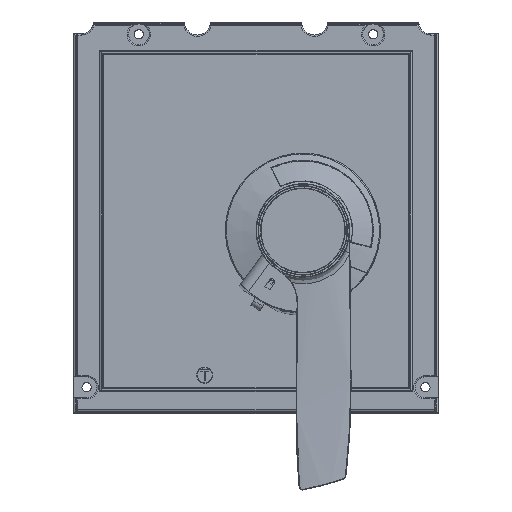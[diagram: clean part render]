
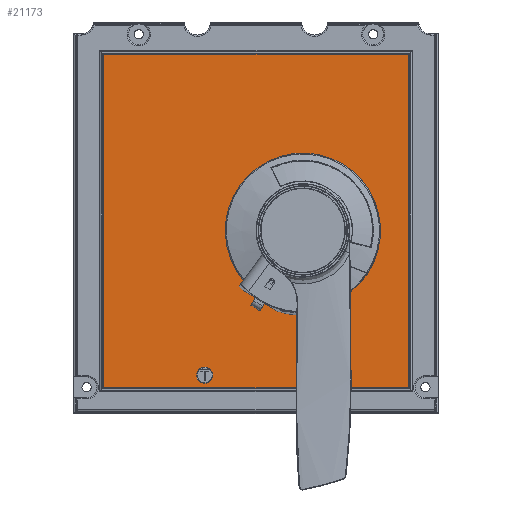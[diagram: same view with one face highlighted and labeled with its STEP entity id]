
A CAD part, top view. The second image highlights one B-rep face of the part: STEP entity #21173.
In plain terms, the highlighted planar face has unit normal (0, 0, 1) as drawn and (0, 1, 0) by its records, which use the part's own axes.
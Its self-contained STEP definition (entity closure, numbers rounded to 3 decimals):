
#456 = ORIENTED_EDGE ( 'NONE', *, *, #22110, .T. ) ;
#1251 = CARTESIAN_POINT ( 'NONE',  ( 18., 55.5, -47.5 ) ) ;
#1416 = CIRCLE ( 'NONE', #11676, 3.1 ) ;
#1748 = FACE_BOUND ( 'NONE', #35250, .T. ) ;
#1887 = ORIENTED_EDGE ( 'NONE', *, *, #37893, .F. ) ;
#3322 = DIRECTION ( 'NONE',  ( 0., 0., -1. ) ) ;
#3747 = CARTESIAN_POINT ( 'NONE',  ( 18., 55.5, 8.5 ) ) ;
#5247 = ORIENTED_EDGE ( 'NONE', *, *, #52655, .T. ) ;
#6428 = DIRECTION ( 'NONE',  ( 0., 1., 0. ) ) ;
#7213 = VECTOR ( 'NONE', #46924, 1000. ) ;
#7453 = DIRECTION ( 'NONE',  ( 0., 1., 0. ) ) ;
#8972 = VERTEX_POINT ( 'NONE', #1251 ) ;
#10297 = EDGE_LOOP ( 'NONE', ( #10987, #37352, #456, #5247 ) ) ;
#10355 = DIRECTION ( 'NONE',  ( 0., 1., 0. ) ) ;
#10987 = ORIENTED_EDGE ( 'NONE', *, *, #50638, .T. ) ;
#11020 = VERTEX_POINT ( 'NONE', #22251 ) ;
#11091 = VERTEX_POINT ( 'NONE', #49085 ) ;
#11676 = AXIS2_PLACEMENT_3D ( 'NONE', #52098, #7453, #12118 ) ;
#12118 = DIRECTION ( 'NONE',  ( 0., 0., 1. ) ) ;
#12334 = LINE ( 'NONE', #26071, #32624 ) ;
#12894 = VERTEX_POINT ( 'NONE', #18314 ) ;
#13618 = CARTESIAN_POINT ( 'NONE',  ( 18., 55.5, -19.5 ) ) ;
#14465 = EDGE_CURVE ( 'NONE', #53257, #34800, #28654, .T. ) ;
#15776 = PLANE ( 'NONE',  #53118 ) ;
#16898 = VECTOR ( 'NONE', #46424, 1000. ) ;
#18314 = CARTESIAN_POINT ( 'NONE',  ( -19.7, 55.5, 32.9 ) ) ;
#18464 = ORIENTED_EDGE ( 'NONE', *, *, #49431, .F. ) ;
#18613 = CARTESIAN_POINT ( 'NONE',  ( 18., 55.5, -19.5 ) ) ;
#19277 = CIRCLE ( 'NONE', #50010, 3.1 ) ;
#20180 = EDGE_LOOP ( 'NONE', ( #50863, #1887 ) ) ;
#21173 = ADVANCED_FACE ( 'NONE', ( #1748, #46707, #55455 ), #15776, .T. ) ;
#22110 = EDGE_CURVE ( 'NONE', #34800, #11091, #12334, .T. ) ;
#22251 = CARTESIAN_POINT ( 'NONE',  ( -58.5, 55.5, -87.2 ) ) ;
#23411 = VECTOR ( 'NONE', #29942, 1000. ) ;
#23589 = DIRECTION ( 'NONE',  ( 0., 1., 0. ) ) ;
#26071 = CARTESIAN_POINT ( 'NONE',  ( 58.5, 55.5, 40.8 ) ) ;
#28654 = LINE ( 'NONE', #54862, #16898 ) ;
#29942 = DIRECTION ( 'NONE',  ( -1., 0., 0. ) ) ;
#31932 = CARTESIAN_POINT ( 'NONE',  ( -19.7, 55.5, 39.1 ) ) ;
#32600 = ORIENTED_EDGE ( 'NONE', *, *, #47405, .F. ) ;
#32624 = VECTOR ( 'NONE', #55859, 1000. ) ;
#34572 = VERTEX_POINT ( 'NONE', #31932 ) ;
#34800 = VERTEX_POINT ( 'NONE', #52265 ) ;
#35250 = EDGE_LOOP ( 'NONE', ( #32600, #18464 ) ) ;
#35689 = CARTESIAN_POINT ( 'NONE',  ( -58.5, 55.5, 40.8 ) ) ;
#36345 = DIRECTION ( 'NONE',  ( 0., 0., -1. ) ) ;
#37352 = ORIENTED_EDGE ( 'NONE', *, *, #14465, .T. ) ;
#37893 = EDGE_CURVE ( 'NONE', #8972, #42684, #43939, .T. ) ;
#39521 = CARTESIAN_POINT ( 'NONE',  ( -19.7, 55.5, 36. ) ) ;
#40099 = LINE ( 'NONE', #43104, #7213 ) ;
#40357 = AXIS2_PLACEMENT_3D ( 'NONE', #18613, #23589, #49846 ) ;
#42340 = CARTESIAN_POINT ( 'NONE',  ( 0., 55.5, 0. ) ) ;
#42684 = VERTEX_POINT ( 'NONE', #3747 ) ;
#43104 = CARTESIAN_POINT ( 'NONE',  ( -58.5, 55.5, -87.2 ) ) ;
#43939 = CIRCLE ( 'NONE', #47679, 28. ) ;
#46424 = DIRECTION ( 'NONE',  ( 1., 0., 0. ) ) ;
#46707 = FACE_BOUND ( 'NONE', #20180, .T. ) ;
#46924 = DIRECTION ( 'NONE',  ( 0., 0., 1. ) ) ;
#47008 = DIRECTION ( 'NONE',  ( 1., 0., 0. ) ) ;
#47405 = EDGE_CURVE ( 'NONE', #34572, #12894, #1416, .T. ) ;
#47679 = AXIS2_PLACEMENT_3D ( 'NONE', #13618, #10355, #36345 ) ;
#48026 = CARTESIAN_POINT ( 'NONE',  ( 58.5, 55.5, -87.2 ) ) ;
#49085 = CARTESIAN_POINT ( 'NONE',  ( 58.5, 55.5, -87.2 ) ) ;
#49431 = EDGE_CURVE ( 'NONE', #12894, #34572, #19277, .T. ) ;
#49846 = DIRECTION ( 'NONE',  ( 0., 0., 1. ) ) ;
#50010 = AXIS2_PLACEMENT_3D ( 'NONE', #39521, #56428, #3322 ) ;
#50638 = EDGE_CURVE ( 'NONE', #11020, #53257, #40099, .T. ) ;
#50863 = ORIENTED_EDGE ( 'NONE', *, *, #55269, .F. ) ;
#51510 = CIRCLE ( 'NONE', #40357, 28. ) ;
#52098 = CARTESIAN_POINT ( 'NONE',  ( -19.7, 55.5, 36. ) ) ;
#52265 = CARTESIAN_POINT ( 'NONE',  ( 58.5, 55.5, 40.8 ) ) ;
#52655 = EDGE_CURVE ( 'NONE', #11091, #11020, #55873, .T. ) ;
#53118 = AXIS2_PLACEMENT_3D ( 'NONE', #42340, #6428, #47008 ) ;
#53257 = VERTEX_POINT ( 'NONE', #35689 ) ;
#54862 = CARTESIAN_POINT ( 'NONE',  ( -58.5, 55.5, 40.8 ) ) ;
#55269 = EDGE_CURVE ( 'NONE', #42684, #8972, #51510, .T. ) ;
#55455 = FACE_OUTER_BOUND ( 'NONE', #10297, .T. ) ;
#55859 = DIRECTION ( 'NONE',  ( 0., 0., -1. ) ) ;
#55873 = LINE ( 'NONE', #48026, #23411 ) ;
#56428 = DIRECTION ( 'NONE',  ( 0., 1., 0. ) ) ;
